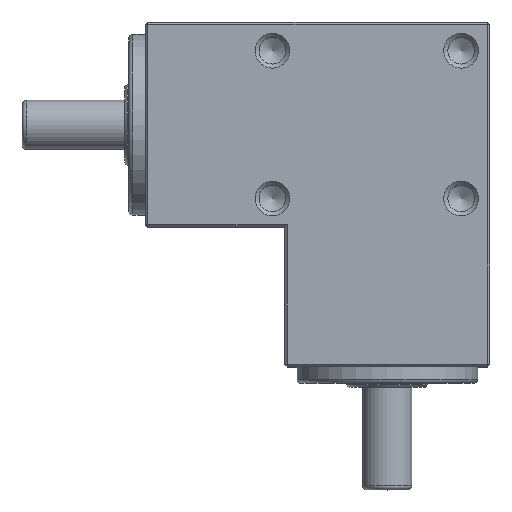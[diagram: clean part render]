
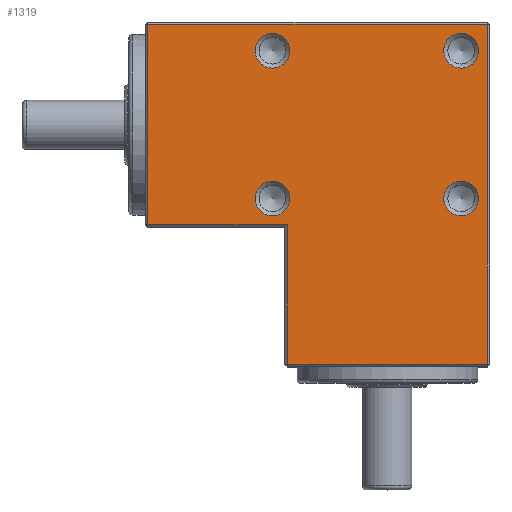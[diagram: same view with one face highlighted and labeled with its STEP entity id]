
A CAD part, top view. The second image highlights one B-rep face of the part: STEP entity #1319.
In plain terms, the highlighted planar face has unit normal (0, 0, 1).
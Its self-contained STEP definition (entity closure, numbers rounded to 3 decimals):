
#1216=CARTESIAN_POINT('',(-11.879,-9.,25.0));
#1217=VERTEX_POINT('',#1216);
#1218=CARTESIAN_POINT('',(-14.,-9.,25.0));
#1219=DIRECTION('',(0.0,0.0,1.0));
#1220=DIRECTION('',(-1.0,0.0,0.0));
#1221=AXIS2_PLACEMENT_3D('',#1218,#1219,#1220);
#1222=CIRCLE('',#1221,2.121);
#1223=EDGE_CURVE('',#1217,#1217,#1222,.T.);
#1228=CARTESIAN_POINT('',(0.,-21.,25.0));
#1229=DIRECTION('',(0.0,0.0,1.0));
#1230=DIRECTION('',(1.0,0.0,0.0));
#1231=AXIS2_PLACEMENT_3D('',#1228,#1229,#1230);
#1232=PLANE('',#1231);
#1233=CARTESIAN_POINT('',(-12.2,-29.2,25.0));
#1234=VERTEX_POINT('',#1233);
#1235=CARTESIAN_POINT('',(-12.2,-12.2,25.0));
#1236=VERTEX_POINT('',#1235);
#1237=CARTESIAN_POINT('',(-12.2,-29.2,25.0));
#1238=DIRECTION('',(0.0,1.0,0.0));
#1239=VECTOR('',#1238,17.);
#1240=LINE('',#1237,#1239);
#1241=EDGE_CURVE('',#1234,#1236,#1240,.T.);
#1242=ORIENTED_EDGE('',*,*,#1241,.F.);
#1243=CARTESIAN_POINT('',(12.2,-29.2,25.0));
#1244=VERTEX_POINT('',#1243);
#1245=CARTESIAN_POINT('',(12.2,-29.2,25.0));
#1246=DIRECTION('',(-1.0,0.0,0.0));
#1247=VECTOR('',#1246,24.4);
#1248=LINE('',#1245,#1247);
#1249=EDGE_CURVE('',#1244,#1234,#1248,.T.);
#1250=ORIENTED_EDGE('',*,*,#1249,.F.);
#1251=CARTESIAN_POINT('',(12.2,12.2,25.0));
#1252=VERTEX_POINT('',#1251);
#1253=CARTESIAN_POINT('',(12.2,12.2,25.0));
#1254=DIRECTION('',(0.0,-1.0,0.0));
#1255=VECTOR('',#1254,41.4);
#1256=LINE('',#1253,#1255);
#1257=EDGE_CURVE('',#1252,#1244,#1256,.T.);
#1258=ORIENTED_EDGE('',*,*,#1257,.F.);
#1259=CARTESIAN_POINT('',(-29.2,12.2,25.0));
#1260=VERTEX_POINT('',#1259);
#1261=CARTESIAN_POINT('',(-29.2,12.2,25.0));
#1262=DIRECTION('',(1.0,0.0,0.0));
#1263=VECTOR('',#1262,41.4);
#1264=LINE('',#1261,#1263);
#1265=EDGE_CURVE('',#1260,#1252,#1264,.T.);
#1266=ORIENTED_EDGE('',*,*,#1265,.F.);
#1267=CARTESIAN_POINT('',(-29.2,-12.2,25.0));
#1268=VERTEX_POINT('',#1267);
#1269=CARTESIAN_POINT('',(-29.2,-12.2,25.0));
#1270=DIRECTION('',(0.0,1.0,0.0));
#1271=VECTOR('',#1270,24.4);
#1272=LINE('',#1269,#1271);
#1273=EDGE_CURVE('',#1268,#1260,#1272,.T.);
#1274=ORIENTED_EDGE('',*,*,#1273,.F.);
#1275=CARTESIAN_POINT('',(-12.2,-12.2,25.0));
#1276=DIRECTION('',(-1.0,0.0,0.0));
#1277=VECTOR('',#1276,17.);
#1278=LINE('',#1275,#1277);
#1279=EDGE_CURVE('',#1236,#1268,#1278,.T.);
#1280=ORIENTED_EDGE('',*,*,#1279,.F.);
#1281=EDGE_LOOP('',(#1242,#1250,#1258,#1266,#1274,#1280));
#1282=FACE_OUTER_BOUND('',#1281,.T.);
#1283=CARTESIAN_POINT('',(11.121,-9.,25.0));
#1284=VERTEX_POINT('',#1283);
#1285=CARTESIAN_POINT('',(9.0,-9.,25.0));
#1286=DIRECTION('',(0.0,0.0,1.0));
#1287=DIRECTION('',(-1.0,0.0,0.0));
#1288=AXIS2_PLACEMENT_3D('',#1285,#1286,#1287);
#1289=CIRCLE('',#1288,2.121);
#1290=EDGE_CURVE('',#1284,#1284,#1289,.T.);
#1291=ORIENTED_EDGE('',*,*,#1290,.F.);
#1292=EDGE_LOOP('',(#1291));
#1293=FACE_BOUND('',#1292,.T.);
#1294=CARTESIAN_POINT('',(-11.879,9.,25.0));
#1295=VERTEX_POINT('',#1294);
#1296=CARTESIAN_POINT('',(-14.0,9.,25.0));
#1297=DIRECTION('',(0.0,0.0,1.0));
#1298=DIRECTION('',(-1.0,0.0,0.0));
#1299=AXIS2_PLACEMENT_3D('',#1296,#1297,#1298);
#1300=CIRCLE('',#1299,2.121);
#1301=EDGE_CURVE('',#1295,#1295,#1300,.T.);
#1302=ORIENTED_EDGE('',*,*,#1301,.F.);
#1303=EDGE_LOOP('',(#1302));
#1304=FACE_BOUND('',#1303,.T.);
#1305=CARTESIAN_POINT('',(11.121,9.,25.0));
#1306=VERTEX_POINT('',#1305);
#1307=CARTESIAN_POINT('',(9.0,9.,25.0));
#1308=DIRECTION('',(0.0,0.0,1.0));
#1309=DIRECTION('',(-1.0,0.0,0.0));
#1310=AXIS2_PLACEMENT_3D('',#1307,#1308,#1309);
#1311=CIRCLE('',#1310,2.121);
#1312=EDGE_CURVE('',#1306,#1306,#1311,.T.);
#1313=ORIENTED_EDGE('',*,*,#1312,.F.);
#1314=EDGE_LOOP('',(#1313));
#1315=FACE_BOUND('',#1314,.T.);
#1316=ORIENTED_EDGE('',*,*,#1223,.F.);
#1317=EDGE_LOOP('',(#1316));
#1318=FACE_BOUND('',#1317,.T.);
#1319=ADVANCED_FACE('',(#1282,#1293,#1304,#1315,#1318),#1232,.T.);
